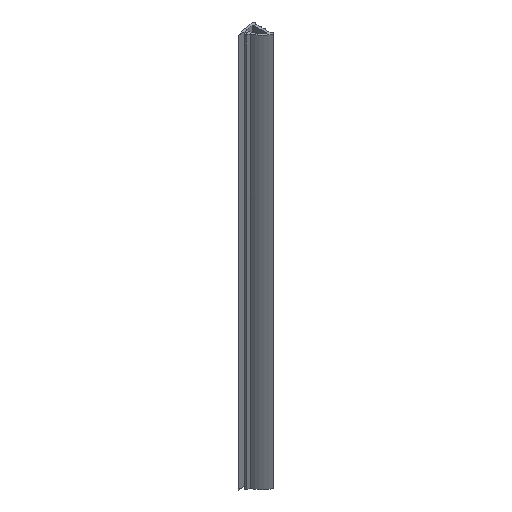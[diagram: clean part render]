
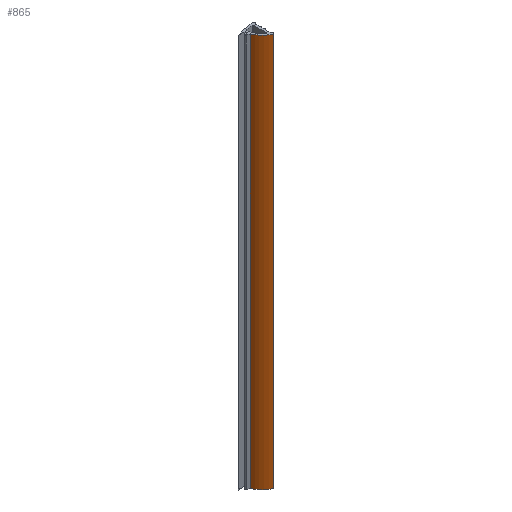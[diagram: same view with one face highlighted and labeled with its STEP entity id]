
A CAD part, isometric view. The second image highlights one B-rep face of the part: STEP entity #865.
In plain terms, the highlighted cylindrical face has radius 10.326 mm (diameter 20.651 mm), a partial arc.
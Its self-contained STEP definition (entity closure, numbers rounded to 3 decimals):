
#5 = CARTESIAN_POINT ( 'NONE',  ( -4.245, -2.924, 0. ) ) ;
#20 = DIRECTION ( 'NONE',  ( 1., 0., 0. ) ) ;
#83 = AXIS2_PLACEMENT_3D ( 'NONE', #357, #577, #438 ) ;
#91 = VERTEX_POINT ( 'NONE', #156 ) ;
#156 = CARTESIAN_POINT ( 'NONE',  ( 1.524, -8.864, 0. ) ) ;
#162 = VERTEX_POINT ( 'NONE', #373 ) ;
#196 = ORIENTED_EDGE ( 'NONE', *, *, #795, .F. ) ;
#201 = DIRECTION ( 'NONE',  ( 0., 0., 1. ) ) ;
#226 = ORIENTED_EDGE ( 'NONE', *, *, #339, .T. ) ;
#231 = ORIENTED_EDGE ( 'NONE', *, *, #637, .F. ) ;
#296 = AXIS2_PLACEMENT_3D ( 'NONE', #626, #201, #20 ) ;
#299 = CYLINDRICAL_SURFACE ( 'NONE', #83, 10.326 ) ;
#339 = EDGE_CURVE ( 'NONE', #680, #91, #712, .T. ) ;
#340 = CARTESIAN_POINT ( 'NONE',  ( 5.425, 0.697, 0. ) ) ;
#357 = CARTESIAN_POINT ( 'NONE',  ( 5.425, 0.697, 200. ) ) ;
#373 = CARTESIAN_POINT ( 'NONE',  ( -4.245, -2.924, 200. ) ) ;
#407 = AXIS2_PLACEMENT_3D ( 'NONE', #340, #549, #764 ) ;
#438 = DIRECTION ( 'NONE',  ( -1., 0., 0. ) ) ;
#449 = DIRECTION ( 'NONE',  ( 0., 0., -1. ) ) ;
#455 = LINE ( 'NONE', #743, #714 ) ;
#525 = DIRECTION ( 'NONE',  ( 0., 0., -1. ) ) ;
#542 = EDGE_CURVE ( 'NONE', #162, #680, #455, .T. ) ;
#549 = DIRECTION ( 'NONE',  ( 0., 0., 1. ) ) ;
#564 = CARTESIAN_POINT ( 'NONE',  ( 1.524, -8.864, 200. ) ) ;
#577 = DIRECTION ( 'NONE',  ( 0., 0., -1. ) ) ;
#626 = CARTESIAN_POINT ( 'NONE',  ( 5.425, 0.697, 200. ) ) ;
#628 = VECTOR ( 'NONE', #449, 1000. ) ;
#637 = EDGE_CURVE ( 'NONE', #162, #742, #780, .T. ) ;
#649 = LINE ( 'NONE', #564, #628 ) ;
#670 = EDGE_LOOP ( 'NONE', ( #226, #196, #231, #875 ) ) ;
#680 = VERTEX_POINT ( 'NONE', #5 ) ;
#712 = CIRCLE ( 'NONE', #407, 10.326 ) ;
#714 = VECTOR ( 'NONE', #525, 1000. ) ;
#742 = VERTEX_POINT ( 'NONE', #763 ) ;
#743 = CARTESIAN_POINT ( 'NONE',  ( -4.245, -2.924, 200. ) ) ;
#763 = CARTESIAN_POINT ( 'NONE',  ( 1.524, -8.864, 200. ) ) ;
#764 = DIRECTION ( 'NONE',  ( 1., 0., 0. ) ) ;
#770 = FACE_OUTER_BOUND ( 'NONE', #670, .T. ) ;
#780 = CIRCLE ( 'NONE', #296, 10.326 ) ;
#795 = EDGE_CURVE ( 'NONE', #742, #91, #649, .T. ) ;
#865 = ADVANCED_FACE ( 'NONE', ( #770 ), #299, .T. ) ;
#875 = ORIENTED_EDGE ( 'NONE', *, *, #542, .T. ) ;
